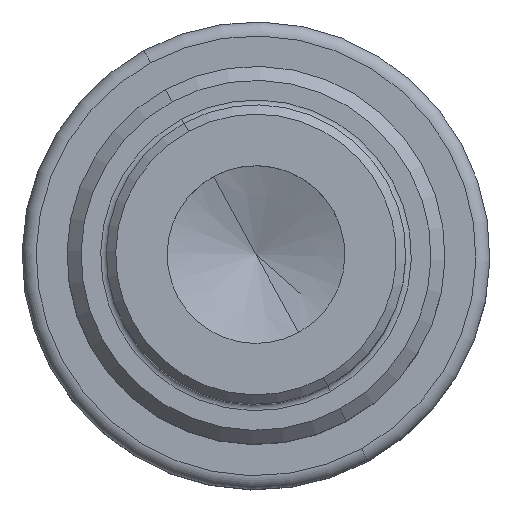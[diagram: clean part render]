
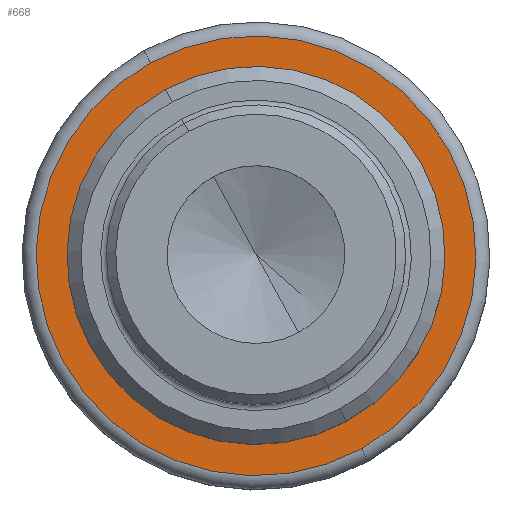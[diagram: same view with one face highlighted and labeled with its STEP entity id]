
A CAD part, top view. The second image highlights one B-rep face of the part: STEP entity #668.
In plain terms, the highlighted planar face has unit normal (0, 0, 1).
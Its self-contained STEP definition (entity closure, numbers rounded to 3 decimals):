
#612=AXIS2_PLACEMENT_3D('Circle Axis2P3D',#610,#611,$) ;
#631=AXIS2_PLACEMENT_3D('Circle Axis2P3D',#629,#630,$) ;
#644=AXIS2_PLACEMENT_3D('Plane Axis2P3D',#641,#642,#643) ;
#652=AXIS2_PLACEMENT_3D('Circle Axis2P3D',#650,#651,$) ;
#661=AXIS2_PLACEMENT_3D('Circle Axis2P3D',#659,#660,$) ;
#607=CARTESIAN_POINT('Vertex',(-11.267,20.623,-79.5)) ;
#610=CARTESIAN_POINT('Axis2P3D Location',(0.,0.,-79.5)) ;
#614=CARTESIAN_POINT('Vertex',(11.267,-20.623,-79.5)) ;
#629=CARTESIAN_POINT('Axis2P3D Location',(0.,0.,-79.5)) ;
#641=CARTESIAN_POINT('Axis2P3D Location',(0.,0.,-79.5)) ;
#650=CARTESIAN_POINT('Axis2P3D Location',(0.,0.,-79.5)) ;
#654=CARTESIAN_POINT('Vertex',(-9.589,-17.552,-79.5)) ;
#656=CARTESIAN_POINT('Vertex',(9.589,17.552,-79.5)) ;
#659=CARTESIAN_POINT('Axis2P3D Location',(0.,0.,-79.5)) ;
#611=DIRECTION('Axis2P3D Direction',(0.,0.,1.)) ;
#630=DIRECTION('Axis2P3D Direction',(0.,0.,1.)) ;
#642=DIRECTION('Axis2P3D Direction',(0.,0.,1.)) ;
#643=DIRECTION('Axis2P3D XDirection',(1.,0.,0.)) ;
#651=DIRECTION('Axis2P3D Direction',(0.,0.,1.)) ;
#660=DIRECTION('Axis2P3D Direction',(0.,0.,1.)) ;
#647=ORIENTED_EDGE('',*,*,#633,.T.) ;
#648=ORIENTED_EDGE('',*,*,#616,.T.) ;
#665=ORIENTED_EDGE('',*,*,#658,.F.) ;
#666=ORIENTED_EDGE('',*,*,#663,.F.) ;
#667=FACE_BOUND('',#664,.T.) ;
#668=ADVANCED_FACE('NOCUT',(#649,#667),#645,.T.) ;
#613=CIRCLE('generated circle',#612,23.5) ;
#632=CIRCLE('generated circle',#631,23.5) ;
#653=CIRCLE('generated circle',#652,20.) ;
#662=CIRCLE('generated circle',#661,20.) ;
#616=EDGE_CURVE('',#615,#608,#613,.T.) ;
#633=EDGE_CURVE('',#608,#615,#632,.T.) ;
#658=EDGE_CURVE('',#655,#657,#653,.T.) ;
#663=EDGE_CURVE('',#657,#655,#662,.T.) ;
#646=EDGE_LOOP('',(#647,#648)) ;
#664=EDGE_LOOP('',(#665,#666)) ;
#649=FACE_OUTER_BOUND('',#646,.T.) ;
#645=PLANE('',#644) ;
#608=VERTEX_POINT('',#607) ;
#615=VERTEX_POINT('',#614) ;
#655=VERTEX_POINT('',#654) ;
#657=VERTEX_POINT('',#656) ;
